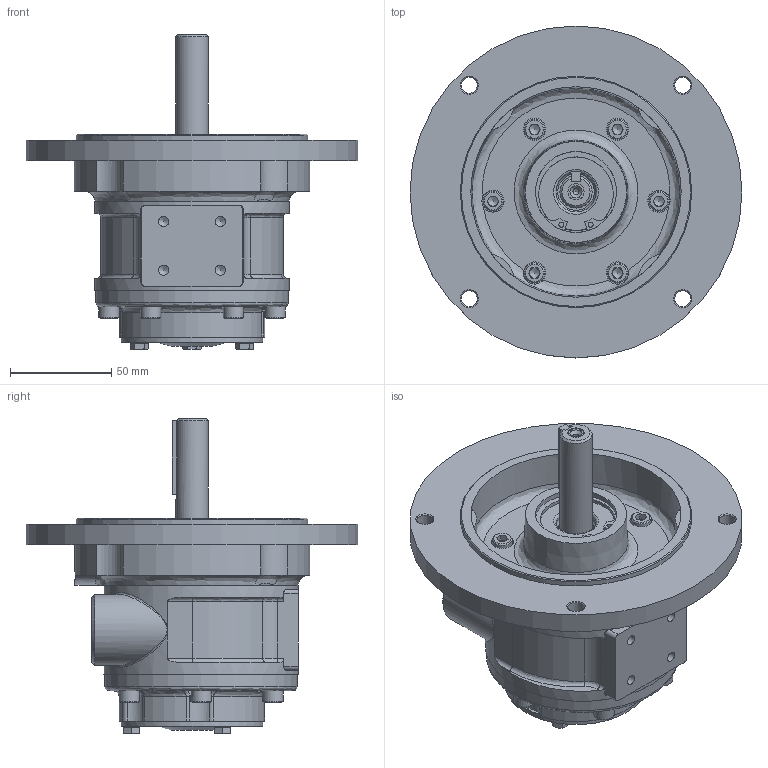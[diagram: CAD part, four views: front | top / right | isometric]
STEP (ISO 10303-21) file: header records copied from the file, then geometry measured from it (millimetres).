
FILE_DESCRIPTION (( 'STEP AP214' ), '1' );
FILE_NAME ('VA4C Defeature.STEP', '2022-05-24T14:55:55', ( '' ), ( '' ), 'SwSTEP 2.0', 'SolidWorks 2020', '' );
FILE_SCHEMA (( 'AUTOMOTIVE_DESIGN' ));
Length unit declared in the file: millimetre
Products named in the file (1): VA4C Defeature
Bounding box: 164 x 164 x 155.6 mm (x, y, z)
Volume: 760248.6 mm3; surface area: 100792.3 mm2
Topology: 1 solids, 2 shells, 527 faces, 1280 edges, 771 vertices
Faces by surface type: plane 282, cylinder 118, bspline 66, cone 61
Full cylindrical faces by diameter (mm): 2.5 x2, 3 x1, 5 x4, 7.938 x4, 8 x4, 10 x12, 11 x6, 15.875 x1, 18 x1, 18.631 x2, 19.8 x1, 21.3 x1, 25 x1, 35 x2, 40 x1, 70 x1, 95 x2, 96 x2, 114.3 x1, 164 x1
Entity records: 21075 total; most frequent: CARTESIAN_POINT 7929, DIRECTION 2267, ORIENTED_EDGE 2210, EDGE_CURVE 1105, AXIS2_PLACEMENT_3D 886, VERTEX_POINT 710, EDGE_LOOP 665, FACE_OUTER_BOUND 585
